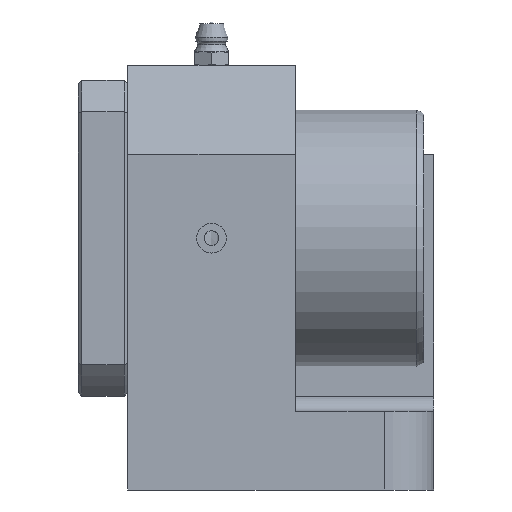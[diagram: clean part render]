
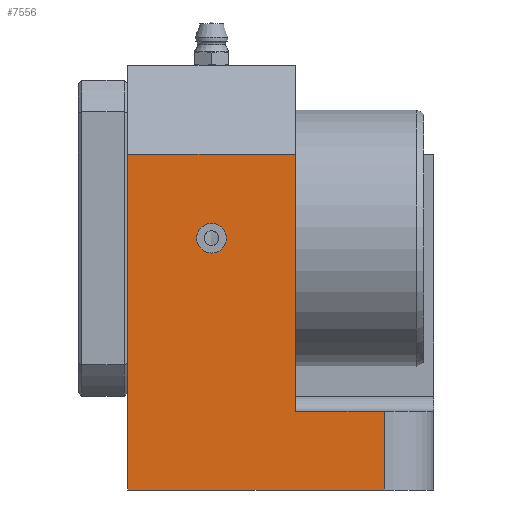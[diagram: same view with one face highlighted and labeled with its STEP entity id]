
A CAD part, front view. The second image highlights one B-rep face of the part: STEP entity #7556.
In plain terms, the highlighted planar face has unit normal (0, -1, 0).
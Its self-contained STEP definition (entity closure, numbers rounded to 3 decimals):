
#7423=CARTESIAN_POINT('',(52.,-100.0,16.));
#7424=VERTEX_POINT('',#7423);
#7432=CARTESIAN_POINT('',(52.,-100.0,0.0));
#7433=VERTEX_POINT('',#7432);
#7434=CARTESIAN_POINT('',(52.,-100.0,16.));
#7435=DIRECTION('',(0.0,0.0,-1.0));
#7436=VECTOR('',#7435,16.);
#7437=LINE('',#7434,#7436);
#7438=EDGE_CURVE('',#7424,#7433,#7437,.T.);
#7459=CARTESIAN_POINT('',(0.0,-100.0,0.0));
#7460=VERTEX_POINT('',#7459);
#7461=CARTESIAN_POINT('',(0.0,-100.0,0.0));
#7462=DIRECTION('',(1.0,0.0,0.0));
#7463=VECTOR('',#7462,52.);
#7464=LINE('',#7461,#7463);
#7465=EDGE_CURVE('',#7460,#7433,#7464,.T.);
#7506=CARTESIAN_POINT('',(62.,-100.0,0.0));
#7507=DIRECTION('',(0.0,-1.0,0.0));
#7508=DIRECTION('',(0.0,0.0,-1.0));
#7509=AXIS2_PLACEMENT_3D('',#7506,#7507,#7508);
#7510=PLANE('',#7509);
#7511=ORIENTED_EDGE('',*,*,#7438,.F.);
#7512=CARTESIAN_POINT('',(34.0,-100.0,16.));
#7513=VERTEX_POINT('',#7512);
#7514=CARTESIAN_POINT('',(52.,-100.0,16.));
#7515=DIRECTION('',(-1.0,0.0,0.0));
#7516=VECTOR('',#7515,18.);
#7517=LINE('',#7514,#7516);
#7518=EDGE_CURVE('',#7424,#7513,#7517,.T.);
#7519=ORIENTED_EDGE('',*,*,#7518,.T.);
#7520=CARTESIAN_POINT('',(34.0,-100.0,68.0));
#7521=VERTEX_POINT('',#7520);
#7522=CARTESIAN_POINT('',(34.0,-100.0,16.));
#7523=DIRECTION('',(0.0,0.0,1.0));
#7524=VECTOR('',#7523,52.0);
#7525=LINE('',#7522,#7524);
#7526=EDGE_CURVE('',#7513,#7521,#7525,.T.);
#7527=ORIENTED_EDGE('',*,*,#7526,.T.);
#7528=CARTESIAN_POINT('',(0.0,-100.0,68.0));
#7529=VERTEX_POINT('',#7528);
#7530=CARTESIAN_POINT('',(0.0,-100.0,68.0));
#7531=DIRECTION('',(1.0,0.0,0.0));
#7532=VECTOR('',#7531,34.0);
#7533=LINE('',#7530,#7532);
#7534=EDGE_CURVE('',#7529,#7521,#7533,.T.);
#7535=ORIENTED_EDGE('',*,*,#7534,.F.);
#7536=CARTESIAN_POINT('',(0.0,-100.0,0.0));
#7537=DIRECTION('',(0.0,0.0,1.0));
#7538=VECTOR('',#7537,68.0);
#7539=LINE('',#7536,#7538);
#7540=EDGE_CURVE('',#7460,#7529,#7539,.T.);
#7541=ORIENTED_EDGE('',*,*,#7540,.F.);
#7542=ORIENTED_EDGE('',*,*,#7465,.T.);
#7543=EDGE_LOOP('',(#7511,#7519,#7527,#7535,#7541,#7542));
#7544=FACE_OUTER_BOUND('',#7543,.T.);
#7545=CARTESIAN_POINT('',(20.0,-100.0,51.));
#7546=VERTEX_POINT('',#7545);
#7547=CARTESIAN_POINT('',(17.0,-100.0,51.));
#7548=DIRECTION('',(0.0,1.0,0.0));
#7549=DIRECTION('',(1.0,0.0,0.0));
#7550=AXIS2_PLACEMENT_3D('',#7547,#7548,#7549);
#7551=CIRCLE('',#7550,3.);
#7552=EDGE_CURVE('',#7546,#7546,#7551,.T.);
#7553=ORIENTED_EDGE('',*,*,#7552,.T.);
#7554=EDGE_LOOP('',(#7553));
#7555=FACE_BOUND('',#7554,.T.);
#7556=ADVANCED_FACE('',(#7544,#7555),#7510,.T.);
